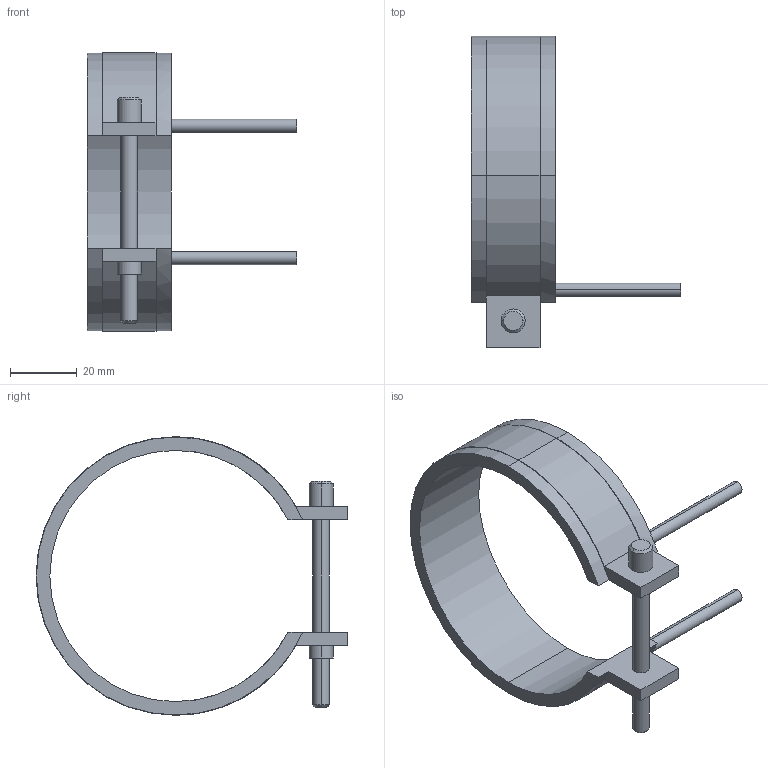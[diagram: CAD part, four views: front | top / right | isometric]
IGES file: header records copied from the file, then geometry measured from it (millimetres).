
Start section: START RECORD GO HERE.
Global section: file name: 14075025.igs; native system: DASSAULT SYSTEMES CATIA V5 R20 - www.3ds.com; preprocessor: CATIA Version 5 Release 20 ; author: Utente; organization: NB04-ASUS; date: 20210403.104616; units: millimetre
Bounding box: 62.5 x 93.1 x 83.2 mm (x, y, z)
Surface area: 15701.3 mm2 (no closed solid volume)
Topology: 0 solids, 0 shells, 45 faces, 232 edges, 232 vertices
Faces by surface type: revolution 28, plane 17
